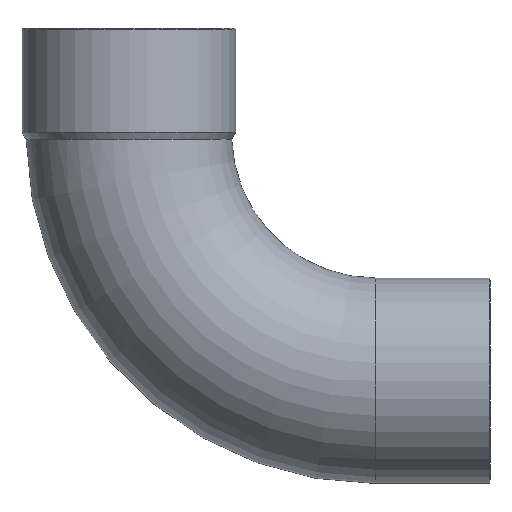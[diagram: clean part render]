
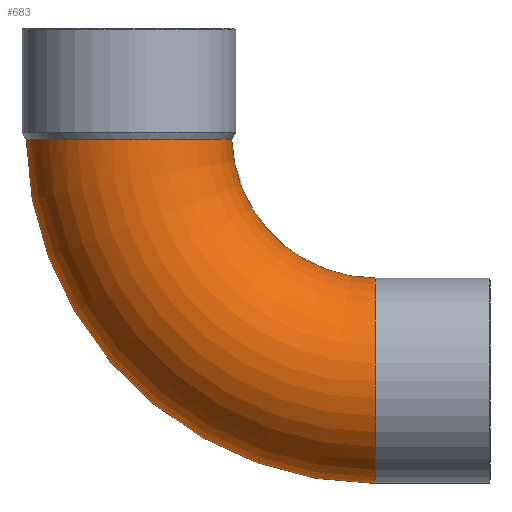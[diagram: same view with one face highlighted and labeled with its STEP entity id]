
A CAD part, front view. The second image highlights one B-rep face of the part: STEP entity #683.
In plain terms, the highlighted toroidal (fillet/blend) face has major radius 84 mm and minor radius 35 mm.
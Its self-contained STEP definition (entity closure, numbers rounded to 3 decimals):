
#49=CARTESIAN_POINT('',(-96.951,0.,-1.824));
#50=VERTEX_POINT('',#49);
#51=CARTESIAN_POINT('',(22.035,0.,-119.0));
#52=VERTEX_POINT('',#51);
#53=CARTESIAN_POINT('',(22.035,0.,0.0));
#54=DIRECTION('',(0.0,-1.0,0.0));
#55=DIRECTION('',(0.0,0.0,-1.0));
#56=AXIS2_PLACEMENT_3D('',#53,#54,#55);
#57=CIRCLE('',#56,119.0);
#58=EDGE_CURVE('',#50,#52,#57,.T.);
#60=CARTESIAN_POINT('',(-26.934,0.,-1.746));
#61=VERTEX_POINT('',#60);
#85=CARTESIAN_POINT('',(22.035,0.,-49.0));
#86=VERTEX_POINT('',#85);
#87=CARTESIAN_POINT('',(22.035,0.,0.0));
#88=DIRECTION('',(0.0,1.0,0.0));
#89=DIRECTION('',(0.0,0.0,-1.0));
#90=AXIS2_PLACEMENT_3D('',#87,#88,#89);
#91=CIRCLE('',#90,49.0);
#92=EDGE_CURVE('',#86,#61,#91,.T.);
#212=CARTESIAN_POINT('',(-26.934,0.,-1.746));
#213=CARTESIAN_POINT('',(-26.934,-0.305,-1.746));
#214=CARTESIAN_POINT('',(-26.938,-0.61,-1.746));
#215=CARTESIAN_POINT('',(-27.065,-5.47,-1.746));
#216=CARTESIAN_POINT('',(-28.073,-9.958,-1.749));
#217=CARTESIAN_POINT('',(-31.754,-18.298,-1.757));
#218=CARTESIAN_POINT('',(-34.392,-22.069,-1.763));
#219=CARTESIAN_POINT('',(-40.966,-28.388,-1.774));
#220=CARTESIAN_POINT('',(-44.84,-30.876,-1.78));
#221=CARTESIAN_POINT('',(-53.321,-34.226,-1.791));
#222=CARTESIAN_POINT('',(-57.848,-35.057,-1.796));
#223=CARTESIAN_POINT('',(-66.966,-34.937,-1.805));
#224=CARTESIAN_POINT('',(-71.468,-33.987,-1.808));
#225=CARTESIAN_POINT('',(-79.856,-30.415,-1.814));
#226=CARTESIAN_POINT('',(-83.661,-27.828,-1.817));
#227=CARTESIAN_POINT('',(-90.064,-21.34,-1.821));
#228=CARTESIAN_POINT('',(-92.601,-17.502,-1.822));
#229=CARTESIAN_POINT('',(-96.061,-9.071,-1.824));
#230=CARTESIAN_POINT('',(-96.951,-4.557,-1.824));
#231=CARTESIAN_POINT('',(-96.951,0.,-1.824));
#232=B_SPLINE_CURVE_WITH_KNOTS('',3,(#212,#213,#214,#215,#216,#217,#218,#219,#220,#221,#222,#223,#224,#225,#226,#227,#228,#229,#230,#231),.UNSPECIFIED.,.F.,.U.,(4,2,2,2,2,2,2,2,2,4),(-11.031,-10.94,-9.573,-8.205,-6.837,-5.469,-4.102,-2.734,-1.367,0.0),.UNSPECIFIED.);
#233=EDGE_CURVE('',#61,#50,#232,.T.);
#539=CARTESIAN_POINT('',(22.035,0.,-84.0));
#540=DIRECTION('',(-1.0,0.0,0.0));
#541=DIRECTION('',(0.0,0.0,-1.0));
#542=AXIS2_PLACEMENT_3D('',#539,#540,#541);
#543=CIRCLE('',#542,35.0);
#544=EDGE_CURVE('',#52,#86,#543,.T.);
#672=CARTESIAN_POINT('',(22.035,0.,0.0));
#673=DIRECTION('',(0.0,-1.0,0.0));
#674=DIRECTION('',(0.0,0.0,-1.0));
#675=AXIS2_PLACEMENT_3D('',#672,#673,#674);
#676=TOROIDAL_SURFACE('',#675,84.0,35.0);
#677=ORIENTED_EDGE('',*,*,#58,.T.);
#678=ORIENTED_EDGE('',*,*,#544,.T.);
#679=ORIENTED_EDGE('',*,*,#92,.T.);
#680=ORIENTED_EDGE('',*,*,#233,.T.);
#681=EDGE_LOOP('',(#677,#678,#679,#680));
#682=FACE_OUTER_BOUND('',#681,.T.);
#683=ADVANCED_FACE('',(#682),#676,.T.);
